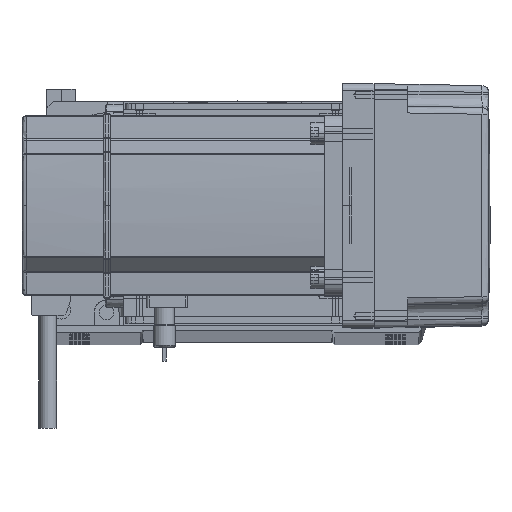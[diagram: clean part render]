
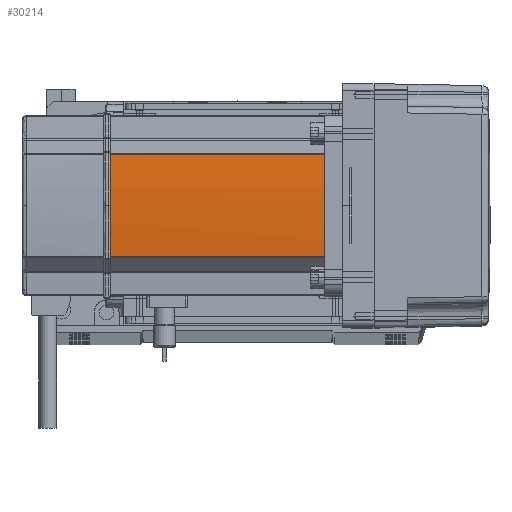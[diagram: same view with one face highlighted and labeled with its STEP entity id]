
A CAD part, top view. The second image highlights one B-rep face of the part: STEP entity #30214.
In plain terms, the highlighted cylindrical face has radius 270 mm (diameter 540 mm), a partial arc.
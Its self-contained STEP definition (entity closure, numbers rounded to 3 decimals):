
#1233 = AXIS2_PLACEMENT_3D ( 'NONE', #50884, #51543, #16215 ) ;
#1908 = DIRECTION ( 'NONE',  ( 1., 0., 0. ) ) ;
#5325 = EDGE_LOOP ( 'NONE', ( #9812, #54030, #42390, #26142, #29612 ) ) ;
#7299 = CARTESIAN_POINT ( 'NONE',  ( 230., 0., 134. ) ) ;
#9812 = ORIENTED_EDGE ( 'NONE', *, *, #33012, .T. ) ;
#11217 = CIRCLE ( 'NONE', #60253, 270. ) ;
#12008 = EDGE_CURVE ( 'NONE', #46401, #55661, #64774, .T. ) ;
#12403 = DIRECTION ( 'NONE',  ( 1., 0., 0. ) ) ;
#12765 = DIRECTION ( 'NONE',  ( 0., 0., 1. ) ) ;
#13465 = CYLINDRICAL_SURFACE ( 'NONE', #1233, 270. ) ;
#16215 = DIRECTION ( 'NONE',  ( 1., 0., 0. ) ) ;
#17092 = CIRCLE ( 'NONE', #23589, 270. ) ;
#18679 = CARTESIAN_POINT ( 'NONE',  ( -39.042, 22.724, 39. ) ) ;
#19975 = CARTESIAN_POINT ( 'NONE',  ( 230., 0., 39. ) ) ;
#23589 = AXIS2_PLACEMENT_3D ( 'NONE', #37958, #57713, #12403 ) ;
#23930 = LINE ( 'NONE', #63613, #48636 ) ;
#25367 = FACE_OUTER_BOUND ( 'NONE', #5325, .T. ) ;
#26142 = ORIENTED_EDGE ( 'NONE', *, *, #55768, .F. ) ;
#26572 = DIRECTION ( 'NONE',  ( 0., 0., -1. ) ) ;
#27195 = VERTEX_POINT ( 'NONE', #57939 ) ;
#29612 = ORIENTED_EDGE ( 'NONE', *, *, #48810, .T. ) ;
#30214 = ADVANCED_FACE ( 'NONE', ( #25367 ), #13465, .T. ) ;
#32145 = DIRECTION ( 'NONE',  ( 0., 0., -1. ) ) ;
#32460 = VERTEX_POINT ( 'NONE', #44240 ) ;
#33012 = EDGE_CURVE ( 'NONE', #47707, #32460, #17092, .T. ) ;
#37958 = CARTESIAN_POINT ( 'NONE',  ( 230., 0., 134. ) ) ;
#40013 = DIRECTION ( 'NONE',  ( 0., 0., -1. ) ) ;
#40460 = AXIS2_PLACEMENT_3D ( 'NONE', #19975, #40013, #64639 ) ;
#40613 = CARTESIAN_POINT ( 'NONE',  ( -39.042, -22.724, 134. ) ) ;
#41021 = CIRCLE ( 'NONE', #40460, 270. ) ;
#42389 = EDGE_CURVE ( 'NONE', #32460, #46401, #11217, .T. ) ;
#42390 = ORIENTED_EDGE ( 'NONE', *, *, #12008, .T. ) ;
#44240 = CARTESIAN_POINT ( 'NONE',  ( -40., 0., 134. ) ) ;
#44461 = CARTESIAN_POINT ( 'NONE',  ( -39.042, 22.724, 134. ) ) ;
#46401 = VERTEX_POINT ( 'NONE', #44461 ) ;
#47707 = VERTEX_POINT ( 'NONE', #40613 ) ;
#48636 = VECTOR ( 'NONE', #12765, 1000. ) ;
#48810 = EDGE_CURVE ( 'NONE', #27195, #47707, #23930, .T. ) ;
#50884 = CARTESIAN_POINT ( 'NONE',  ( 230., 0., 0. ) ) ;
#51543 = DIRECTION ( 'NONE',  ( 0., 0., 1. ) ) ;
#52566 = CARTESIAN_POINT ( 'NONE',  ( -39.042, 22.724, 0. ) ) ;
#53699 = VECTOR ( 'NONE', #26572, 1000. ) ;
#54030 = ORIENTED_EDGE ( 'NONE', *, *, #42389, .T. ) ;
#55661 = VERTEX_POINT ( 'NONE', #18679 ) ;
#55768 = EDGE_CURVE ( 'NONE', #27195, #55661, #41021, .T. ) ;
#57713 = DIRECTION ( 'NONE',  ( 0., 0., -1. ) ) ;
#57939 = CARTESIAN_POINT ( 'NONE',  ( -39.042, -22.724, 39. ) ) ;
#60253 = AXIS2_PLACEMENT_3D ( 'NONE', #7299, #32145, #1908 ) ;
#63613 = CARTESIAN_POINT ( 'NONE',  ( -39.042, -22.724, 0. ) ) ;
#64639 = DIRECTION ( 'NONE',  ( 1., 0., 0. ) ) ;
#64774 = LINE ( 'NONE', #52566, #53699 ) ;
